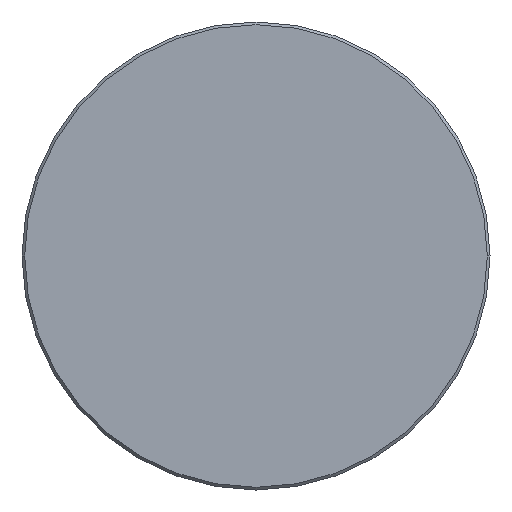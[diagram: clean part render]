
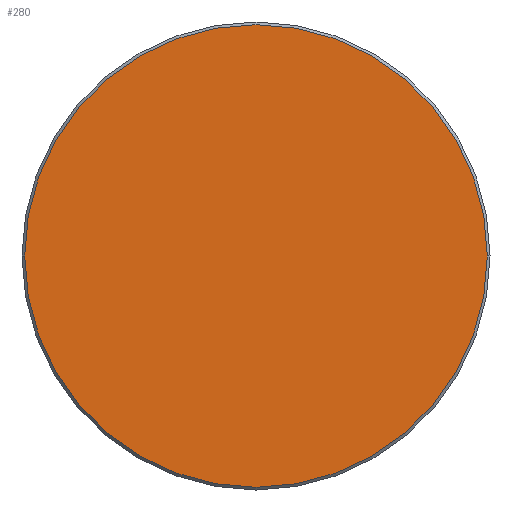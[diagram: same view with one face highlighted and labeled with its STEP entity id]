
A CAD part, left-side view. The second image highlights one B-rep face of the part: STEP entity #280.
In plain terms, the highlighted planar face has unit normal (-1, 0, 0).
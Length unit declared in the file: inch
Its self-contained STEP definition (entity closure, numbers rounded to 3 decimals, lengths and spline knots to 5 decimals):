
#20 = AXIS2_PLACEMENT_3D ( 'NONE', #293, #240, #265 ) ;
#122 = DIRECTION ( 'NONE',  ( 0., -1., 0. ) ) ;
#146 = DIRECTION ( 'NONE',  ( -1., 0., 0. ) ) ;
#149 = CARTESIAN_POINT ( 'NONE',  ( 0., 0., 0. ) ) ;
#173 = EDGE_CURVE ( 'NONE', #246, #266, #253, .T. ) ;
#179 = DIRECTION ( 'NONE',  ( -1., 0., 0. ) ) ;
#187 = EDGE_CURVE ( 'NONE', #266, #246, #268, .T. ) ;
#200 = DIRECTION ( 'NONE',  ( 0., -1., 0. ) ) ;
#209 = PLANE ( 'NONE',  #20 ) ;
#211 = FACE_OUTER_BOUND ( 'NONE', #349, .T. ) ;
#240 = DIRECTION ( 'NONE',  ( -1., 0., 0. ) ) ;
#246 = VERTEX_POINT ( 'NONE', #381 ) ;
#253 = CIRCLE ( 'NONE', #278, 0.33975 ) ;
#265 = DIRECTION ( 'NONE',  ( 0., -1., 0. ) ) ;
#266 = VERTEX_POINT ( 'NONE', #350 ) ;
#268 = CIRCLE ( 'NONE', #361, 0.33975 ) ;
#278 = AXIS2_PLACEMENT_3D ( 'NONE', #149, #146, #200 ) ;
#280 = ADVANCED_FACE ( 'NONE', ( #211 ), #209, .T. ) ;
#288 = CARTESIAN_POINT ( 'NONE',  ( 0., 0., 0. ) ) ;
#293 = CARTESIAN_POINT ( 'NONE',  ( 0., 0., 0. ) ) ;
#319 = ORIENTED_EDGE ( 'NONE', *, *, #187, .T. ) ;
#327 = ORIENTED_EDGE ( 'NONE', *, *, #173, .T. ) ;
#349 = EDGE_LOOP ( 'NONE', ( #327, #319 ) ) ;
#350 = CARTESIAN_POINT ( 'NONE',  ( 0., -0.33975, 0. ) ) ;
#361 = AXIS2_PLACEMENT_3D ( 'NONE', #288, #179, #122 ) ;
#381 = CARTESIAN_POINT ( 'NONE',  ( 0., 0.33975, 0. ) ) ;
